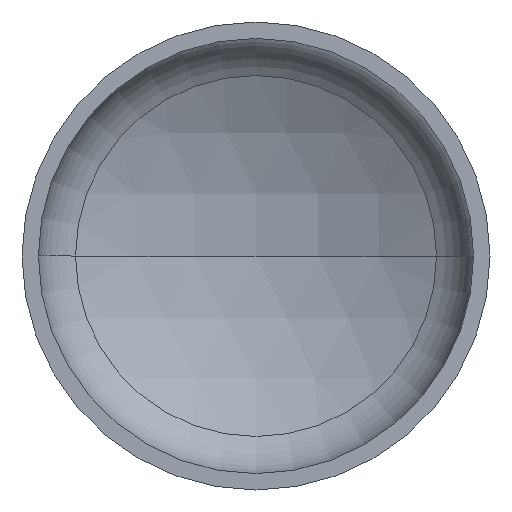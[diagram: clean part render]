
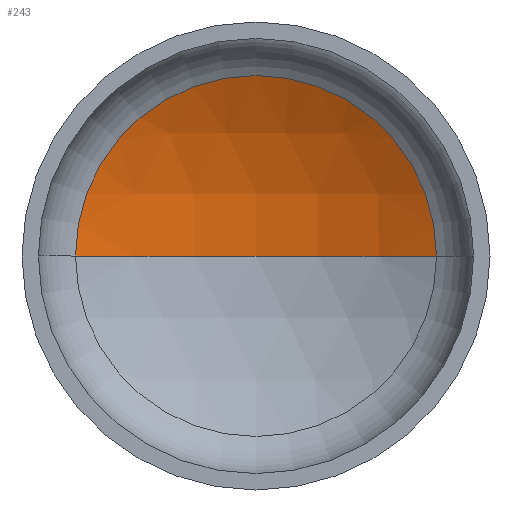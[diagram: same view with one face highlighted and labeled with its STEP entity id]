
A CAD part, front view. The second image highlights one B-rep face of the part: STEP entity #243.
In plain terms, the highlighted spherical face has radius 480 mm.
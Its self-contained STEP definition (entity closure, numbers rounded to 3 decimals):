
#1 = ORIENTED_EDGE ( 'NONE', *, *, #370, .T. ) ;
#9 = VERTEX_POINT ( 'NONE', #311 ) ;
#11 = VERTEX_POINT ( 'NONE', #283 ) ;
#14 = CARTESIAN_POINT ( 'NONE',  ( 0., 150.61, 0. ) ) ;
#16 = AXIS2_PLACEMENT_3D ( 'NONE', #200, #357, #205 ) ;
#21 = DIRECTION ( 'NONE',  ( 0., -1., 0. ) ) ;
#22 = CIRCLE ( 'NONE', #57, 231.34 ) ;
#29 = ORIENTED_EDGE ( 'NONE', *, *, #350, .F. ) ;
#36 = AXIS2_PLACEMENT_3D ( 'NONE', #182, #206, #254 ) ;
#40 = AXIS2_PLACEMENT_3D ( 'NONE', #294, #277, #260 ) ;
#41 = EDGE_LOOP ( 'NONE', ( #29, #1, #147 ) ) ;
#57 = AXIS2_PLACEMENT_3D ( 'NONE', #14, #21, #367 ) ;
#126 = VERTEX_POINT ( 'NONE', #312 ) ;
#136 = EDGE_CURVE ( 'NONE', #9, #126, #22, .T. ) ;
#147 = ORIENTED_EDGE ( 'NONE', *, *, #136, .T. ) ;
#151 = SPHERICAL_SURFACE ( 'NONE', #40, 480. ) ;
#182 = CARTESIAN_POINT ( 'NONE',  ( 0., -269.963, 0. ) ) ;
#200 = CARTESIAN_POINT ( 'NONE',  ( 0., -269.963, 0. ) ) ;
#205 = DIRECTION ( 'NONE',  ( -1., 0., 0. ) ) ;
#206 = DIRECTION ( 'NONE',  ( 0., 0., 1. ) ) ;
#243 = ADVANCED_FACE ( 'NONE', ( #360 ), #151, .F. ) ;
#254 = DIRECTION ( 'NONE',  ( 1., 0., 0. ) ) ;
#260 = DIRECTION ( 'NONE',  ( -1., 0., 0. ) ) ;
#277 = DIRECTION ( 'NONE',  ( 0., 0., -1. ) ) ;
#283 = CARTESIAN_POINT ( 'NONE',  ( 0., 210.037, 0. ) ) ;
#290 = CIRCLE ( 'NONE', #36, 480. ) ;
#294 = CARTESIAN_POINT ( 'NONE',  ( 0., -269.963, 0. ) ) ;
#311 = CARTESIAN_POINT ( 'NONE',  ( 231.34, 150.61, 0. ) ) ;
#312 = CARTESIAN_POINT ( 'NONE',  ( -231.34, 150.61, 0. ) ) ;
#350 = EDGE_CURVE ( 'NONE', #11, #126, #290, .T. ) ;
#357 = DIRECTION ( 'NONE',  ( 0., 0., -1. ) ) ;
#360 = FACE_OUTER_BOUND ( 'NONE', #41, .T. ) ;
#367 = DIRECTION ( 'NONE',  ( 1., 0., 0. ) ) ;
#370 = EDGE_CURVE ( 'NONE', #11, #9, #386, .T. ) ;
#386 = CIRCLE ( 'NONE', #16, 480. ) ;
